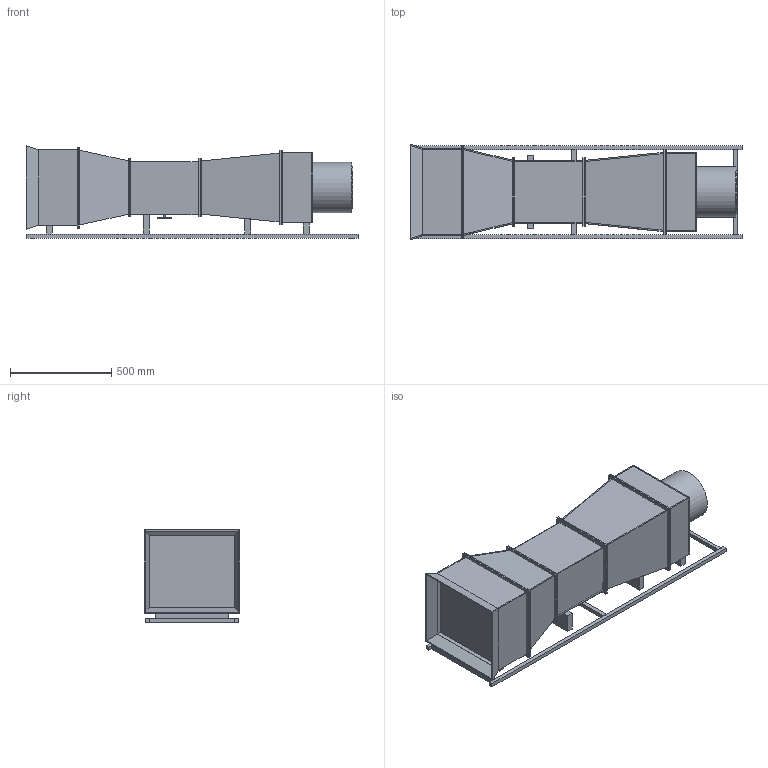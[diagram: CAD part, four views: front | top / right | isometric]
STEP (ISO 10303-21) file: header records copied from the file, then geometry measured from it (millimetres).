
FILE_DESCRIPTION(('Open CASCADE Model'),'2;1');
FILE_NAME('Open CASCADE Shape Model','2026-10-16T18:03:45',('Author'),( 'Open CASCADE'),'Open CASCADE STEP processor 7.8','Open CASCADE 7.8' ,'Unknown');
FILE_SCHEMA(('AUTOMOTIVE_DESIGN { 1 0 10303 214 1 1 1 1 }'));
Length unit declared in the file: millimetre
Products named in the file (55): FN_LAB_DESK_V02_REVIEW_ONLY; P01-T_Bellmouth faceted inlet top; P01-B_Bellmouth faceted inlet bottom; P01-R_Bellmouth faceted inlet right; P01-L_Bellmouth faceted inlet left; P02-T_Settling chamber top; P02-B_Settling chamber bottom; P02-R_Settling chamber right; P02-L_Settling chamber left; P03-T_Contraction (linear prototype) top; P03-B_Contraction (linear prototype) bottom; P03-R_Contraction (linear prototype) right; P03-L_Contraction (linear prototype) left; P04_Module flange _ M5 clearance; P05_Module flange _ M5 clearance; P06_Module flange _ M5 clearance; P07_Module flange _ M5 clearance; P08_Test floor _ sealed 50 x 12 stem slot; P09_Clear test roof; P10_Clear test side; P11_Clear test side; P12_Module flange _ M5 clearance; P13_Module flange _ M5 clearance; P14-T_Low-angle diffuser top; P14-B_Low-angle diffuser bottom; P14-R_Low-angle diffuser right; P14-L_Low-angle diffuser left; P15_Module flange _ M5 clearance; P16_Module flange _ M5 clearance; P17-T_Fan plenum top; P17-B_Fan plenum bottom; P17-R_Fan plenum right; P17-L_Fan plenum left; P18_Fan bulkhead _ provisional 200 mm port; E01_Inline fan ENVELOPE ONLY _ 200 mm duct; E02_Guard ring envelope _ wire mesh not modelled; E03_Guard ring envelope _ wire mesh not modelled; E04_Honeycomb material envelope; E05_Screen plane envelope; E06_Screen plane envelope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
Assembly tree (54 placements, depth 2):
  FN_LAB_DESK_V02_REVIEW_ONLY
    P01-T_Bellmouth faceted inlet top
    P01-B_Bellmouth faceted inlet bottom
    P01-R_Bellmouth faceted inlet right
    P01-L_Bellmouth faceted inlet left
    P02-T_Settling chamber top
    P02-B_Settling chamber bottom
    P02-R_Settling chamber right
    P02-L_Settling chamber left
    P03-T_Contraction (linear prototype) top
    P03-B_Contraction (linear prototype) bottom
    P03-R_Contraction (linear prototype) right
    P03-L_Contraction (linear prototype) left
    P04_Module flange _ M5 clearance
    P05_Module flange _ M5 clearance
    P06_Module flange _ M5 clearance
    P07_Module flange _ M5 clearance
    P08_Test floor _ sealed 50 x 12 stem slot
    P09_Clear test roof
    P10_Clear test side
    P11_Clear test side
    P12_Module flange _ M5 clearance
    P13_Module flange _ M5 clearance
    P14-T_Low-angle diffuser top
    P14-B_Low-angle diffuser bottom
    P14-R_Low-angle diffuser right
    P14-L_Low-angle diffuser left
    P15_Module flange _ M5 clearance
    P16_Module flange _ M5 clearance
    P17-T_Fan plenum top
    P17-B_Fan plenum bottom
    P17-R_Fan plenum right
    P17-L_Fan plenum left
    P18_Fan bulkhead _ provisional 200 mm port
    E01_Inline fan ENVELOPE ONLY _ 200 mm duct
    E02_Guard ring envelope _ wire mesh not modelled
    E03_Guard ring envelope _ wire mesh not modelled
    E04_Honeycomb material envelope
    E05_Screen plane envelope
    E06_Screen plane envelope
    F01_2020 longitudinal rail 1640 mm
    F02_2020 longitudinal rail 1640 mm
    F03_2020 cross rail 420 mm
    F04_2020 cross rail 420 mm
    F05_2020 cross rail 420 mm
    F10_Module support _ height concept
    F11_Module support _ height concept
    F12_Module support _ height concept
    F13_Module support _ height concept
    A01_Manual mount base _ M5 holes
    A02_8 mm support stem _ 137 mm
    A03_Printed pitch clevis side _ M5 pivot
    A04_Printed pitch clevis side _ M5 pivot
    A05_M5 pivot envelope
    R01_1:40 aircraft CLEARANCE ENVELOPE ONLY
Bounding box: 1640 x 472 x 456 mm (x, y, z)
Volume: 31561432 mm3; surface area: 6897457.3 mm2
Topology: 54 solids, 54 shells, 387 faces, 837 edges, 558 vertices
Faces by surface type: plane 338, cylinder 49
Full cylindrical faces by diameter (mm): 5 x3, 5.5 x36, 8 x1, 192 x2, 200 x2, 210 x2, 250 x1
Entity records: 23034 total; most frequent: CARTESIAN_POINT 3999, DIRECTION 3405, LINE 2307, VECTOR 2307, ORIENTED_EDGE 1674, PCURVE 1674, DEFINITIONAL_REPRESENTATION 1674, EDGE_CURVE 837
